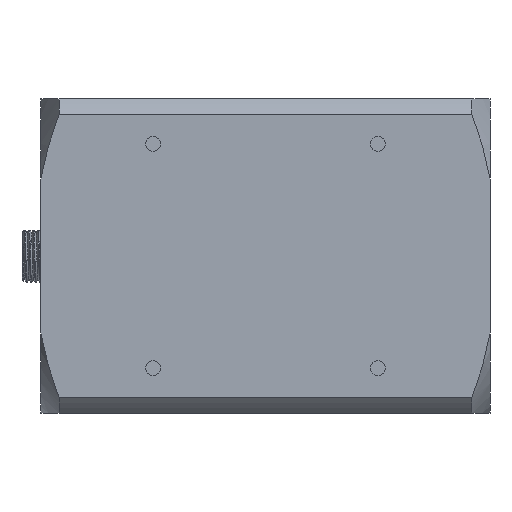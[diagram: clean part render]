
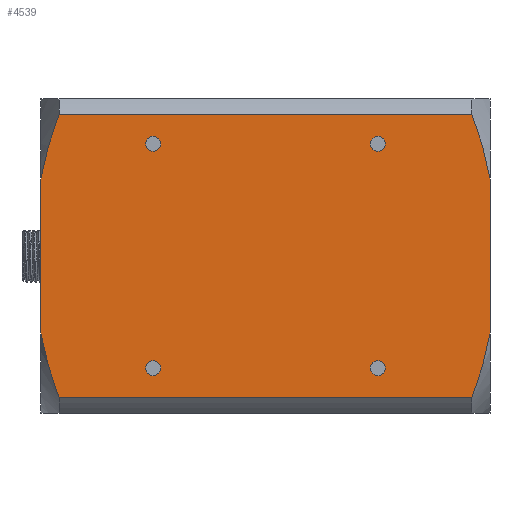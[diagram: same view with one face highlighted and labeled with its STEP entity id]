
A CAD part, front view. The second image highlights one B-rep face of the part: STEP entity #4539.
In plain terms, the highlighted planar face has unit normal (0, -1, 0).
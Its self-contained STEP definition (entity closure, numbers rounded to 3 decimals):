
#1548=FACE_BOUND('',#8053,.T.);
#1549=FACE_BOUND('',#8054,.T.);
#1550=FACE_BOUND('',#8055,.T.);
#1551=FACE_BOUND('',#8056,.T.);
#1552=FACE_BOUND('',#8057,.T.);
#2037=B_SPLINE_CURVE_WITH_KNOTS('',3,(#44125,#44126,#44127,#44128),
 .UNSPECIFIED.,.F.,.F.,(4,4),(0.,1.),.UNSPECIFIED.);
#2047=B_SPLINE_CURVE_WITH_KNOTS('',3,(#44237,#44238,#44239,#44240),
 .UNSPECIFIED.,.F.,.F.,(4,4),(0.,1.),.UNSPECIFIED.);
#2049=B_SPLINE_CURVE_WITH_KNOTS('',3,(#44263,#44264,#44265,#44266),
 .UNSPECIFIED.,.F.,.F.,(4,4),(0.,1.),.UNSPECIFIED.);
#2052=B_SPLINE_CURVE_WITH_KNOTS('',3,(#44327,#44328,#44329,#44330),
 .UNSPECIFIED.,.F.,.F.,(4,4),(0.,1.),.UNSPECIFIED.);
#3301=PLANE('',#28863);
#4539=ADVANCED_FACE('',(#1548,#1549,#1550,#1551,#1552),#3301,.T.);
#8053=EDGE_LOOP('',(#16274,#16275));
#8054=EDGE_LOOP('',(#16276,#16277));
#8055=EDGE_LOOP('',(#16278,#16279));
#8056=EDGE_LOOP('',(#16280,#16281));
#8057=EDGE_LOOP('',(#16282,#16283,#16284,#16285,#16286,#16287,#16288,#16289));
#9617=LINE('',#44244,#11617);
#9619=LINE('',#44261,#11619);
#9621=LINE('',#44276,#11621);
#9623=LINE('',#44284,#11623);
#11617=VECTOR('',#33239,1.);
#11619=VECTOR('',#33253,1.);
#11621=VECTOR('',#33261,1.);
#11623=VECTOR('',#33271,1.);
#16274=ORIENTED_EDGE('',*,*,#24435,.T.);
#16275=ORIENTED_EDGE('',*,*,#24433,.T.);
#16276=ORIENTED_EDGE('',*,*,#24431,.T.);
#16277=ORIENTED_EDGE('',*,*,#24429,.T.);
#16278=ORIENTED_EDGE('',*,*,#24427,.T.);
#16279=ORIENTED_EDGE('',*,*,#24425,.T.);
#16280=ORIENTED_EDGE('',*,*,#24423,.T.);
#16281=ORIENTED_EDGE('',*,*,#24421,.T.);
#16282=ORIENTED_EDGE('',*,*,#24416,.F.);
#16283=ORIENTED_EDGE('',*,*,#24436,.T.);
#16284=ORIENTED_EDGE('',*,*,#24399,.F.);
#16285=ORIENTED_EDGE('',*,*,#24397,.F.);
#16286=ORIENTED_EDGE('',*,*,#24406,.T.);
#16287=ORIENTED_EDGE('',*,*,#24407,.F.);
#16288=ORIENTED_EDGE('',*,*,#24411,.F.);
#16289=ORIENTED_EDGE('',*,*,#24361,.T.);
#21435=VERTEX_POINT('',#44129);
#21436=VERTEX_POINT('',#44130);
#21467=VERTEX_POINT('',#44236);
#21468=VERTEX_POINT('',#44241);
#21469=VERTEX_POINT('',#44245);
#21473=VERTEX_POINT('',#44260);
#21474=VERTEX_POINT('',#44267);
#21477=VERTEX_POINT('',#44283);
#21479=VERTEX_POINT('',#44296);
#21480=VERTEX_POINT('',#44298);
#21481=VERTEX_POINT('',#44304);
#21482=VERTEX_POINT('',#44306);
#21483=VERTEX_POINT('',#44312);
#21484=VERTEX_POINT('',#44314);
#21485=VERTEX_POINT('',#44320);
#21486=VERTEX_POINT('',#44322);
#24361=EDGE_CURVE('',#21435,#21436,#2037,.T.);
#24397=EDGE_CURVE('',#21467,#21468,#2047,.T.);
#24399=EDGE_CURVE('',#21468,#21469,#9617,.T.);
#24406=EDGE_CURVE('',#21467,#21473,#9619,.T.);
#24407=EDGE_CURVE('',#21474,#21473,#2049,.T.);
#24411=EDGE_CURVE('',#21435,#21474,#9621,.T.);
#24416=EDGE_CURVE('',#21477,#21436,#9623,.T.);
#24421=EDGE_CURVE('',#21480,#21479,#27146,.T.);
#24423=EDGE_CURVE('',#21479,#21480,#27147,.T.);
#24425=EDGE_CURVE('',#21482,#21481,#27148,.T.);
#24427=EDGE_CURVE('',#21481,#21482,#27149,.T.);
#24429=EDGE_CURVE('',#21484,#21483,#27150,.T.);
#24431=EDGE_CURVE('',#21483,#21484,#27151,.T.);
#24433=EDGE_CURVE('',#21486,#21485,#27152,.T.);
#24435=EDGE_CURVE('',#21485,#21486,#27153,.T.);
#24436=EDGE_CURVE('',#21477,#21469,#2052,.T.);
#27146=CIRCLE('',#28847,1.65);
#27147=CIRCLE('',#28849,1.65);
#27148=CIRCLE('',#28851,1.65);
#27149=CIRCLE('',#28853,1.65);
#27150=CIRCLE('',#28855,1.65);
#27151=CIRCLE('',#28857,1.65);
#27152=CIRCLE('',#28859,1.65);
#27153=CIRCLE('',#28861,1.65);
#28847=AXIS2_PLACEMENT_3D('',#44297,#33282,#33283);
#28849=AXIS2_PLACEMENT_3D('',#44301,#33287,#33288);
#28851=AXIS2_PLACEMENT_3D('',#44305,#33292,#33293);
#28853=AXIS2_PLACEMENT_3D('',#44309,#33297,#33298);
#28855=AXIS2_PLACEMENT_3D('',#44313,#33302,#33303);
#28857=AXIS2_PLACEMENT_3D('',#44317,#33307,#33308);
#28859=AXIS2_PLACEMENT_3D('',#44321,#33312,#33313);
#28861=AXIS2_PLACEMENT_3D('',#44325,#33317,#33318);
#28863=AXIS2_PLACEMENT_3D('',#44331,#33321,#33322);
#33239=DIRECTION('',(1.,0.,0.));
#33253=DIRECTION('',(0.,0.,-1.));
#33261=DIRECTION('',(-1.,0.,0.));
#33271=DIRECTION('',(0.,0.,-1.));
#33282=DIRECTION('',(0.,1.,0.));
#33283=DIRECTION('',(0.,0.,1.));
#33287=DIRECTION('',(0.,1.,0.));
#33288=DIRECTION('',(0.,0.,-1.));
#33292=DIRECTION('',(0.,1.,0.));
#33293=DIRECTION('',(0.,0.,1.));
#33297=DIRECTION('',(0.,1.,0.));
#33298=DIRECTION('',(0.,0.,-1.));
#33302=DIRECTION('',(0.,1.,0.));
#33303=DIRECTION('',(0.,0.,1.));
#33307=DIRECTION('',(0.,1.,0.));
#33308=DIRECTION('',(0.,0.,-1.));
#33312=DIRECTION('',(0.,1.,0.));
#33313=DIRECTION('',(0.,0.,1.));
#33317=DIRECTION('',(0.,1.,0.));
#33318=DIRECTION('',(0.,0.,-1.));
#33321=DIRECTION('',(0.,-1.,0.));
#33322=DIRECTION('',(0.,0.,1.));
#44125=CARTESIAN_POINT('',(90.959,-64.49,-51.041));
#44126=CARTESIAN_POINT('',(92.723,-64.49,-46.358));
#44127=CARTESIAN_POINT('',(94.214,-64.49,-41.599));
#44128=CARTESIAN_POINT('',(95.,-64.49,-36.641));
#44129=CARTESIAN_POINT('',(90.959,-64.49,-51.041));
#44130=CARTESIAN_POINT('',(95.,-64.49,-36.641));
#44236=CARTESIAN_POINT('',(-5.,-64.49,-2.359));
#44237=CARTESIAN_POINT('',(-5.,-64.49,-2.359));
#44238=CARTESIAN_POINT('',(-4.214,-64.49,2.599));
#44239=CARTESIAN_POINT('',(-2.723,-64.49,7.358));
#44240=CARTESIAN_POINT('',(-0.959,-64.49,12.041));
#44241=CARTESIAN_POINT('',(-0.959,-64.49,12.041));
#44244=CARTESIAN_POINT('',(-5.,-64.49,12.041));
#44245=CARTESIAN_POINT('',(90.959,-64.49,12.041));
#44260=CARTESIAN_POINT('',(-5.,-64.49,-36.641));
#44261=CARTESIAN_POINT('',(-5.,-64.49,2.041));
#44263=CARTESIAN_POINT('',(-0.959,-64.49,-51.041));
#44264=CARTESIAN_POINT('',(-2.723,-64.49,-46.358));
#44265=CARTESIAN_POINT('',(-4.214,-64.49,-41.599));
#44266=CARTESIAN_POINT('',(-5.,-64.49,-36.641));
#44267=CARTESIAN_POINT('',(-0.959,-64.49,-51.041));
#44276=CARTESIAN_POINT('',(95.,-64.49,-51.041));
#44283=CARTESIAN_POINT('',(95.,-64.49,-2.359));
#44284=CARTESIAN_POINT('',(95.,-64.49,2.041));
#44296=CARTESIAN_POINT('',(20.,-64.49,3.85));
#44297=CARTESIAN_POINT('',(20.,-64.49,5.5));
#44298=CARTESIAN_POINT('',(20.,-64.49,7.15));
#44301=CARTESIAN_POINT('',(20.,-64.49,5.5));
#44304=CARTESIAN_POINT('',(70.,-64.49,-46.15));
#44305=CARTESIAN_POINT('',(70.,-64.49,-44.5));
#44306=CARTESIAN_POINT('',(70.,-64.49,-42.85));
#44309=CARTESIAN_POINT('',(70.,-64.49,-44.5));
#44312=CARTESIAN_POINT('',(20.,-64.49,-46.15));
#44313=CARTESIAN_POINT('',(20.,-64.49,-44.5));
#44314=CARTESIAN_POINT('',(20.,-64.49,-42.85));
#44317=CARTESIAN_POINT('',(20.,-64.49,-44.5));
#44320=CARTESIAN_POINT('',(70.,-64.49,3.85));
#44321=CARTESIAN_POINT('',(70.,-64.49,5.5));
#44322=CARTESIAN_POINT('',(70.,-64.49,7.15));
#44325=CARTESIAN_POINT('',(70.,-64.49,5.5));
#44327=CARTESIAN_POINT('',(95.,-64.49,-2.359));
#44328=CARTESIAN_POINT('',(94.214,-64.49,2.599));
#44329=CARTESIAN_POINT('',(92.723,-64.49,7.358));
#44330=CARTESIAN_POINT('',(90.959,-64.49,12.041));
#44331=CARTESIAN_POINT('',(95.,-64.49,-44.5));
